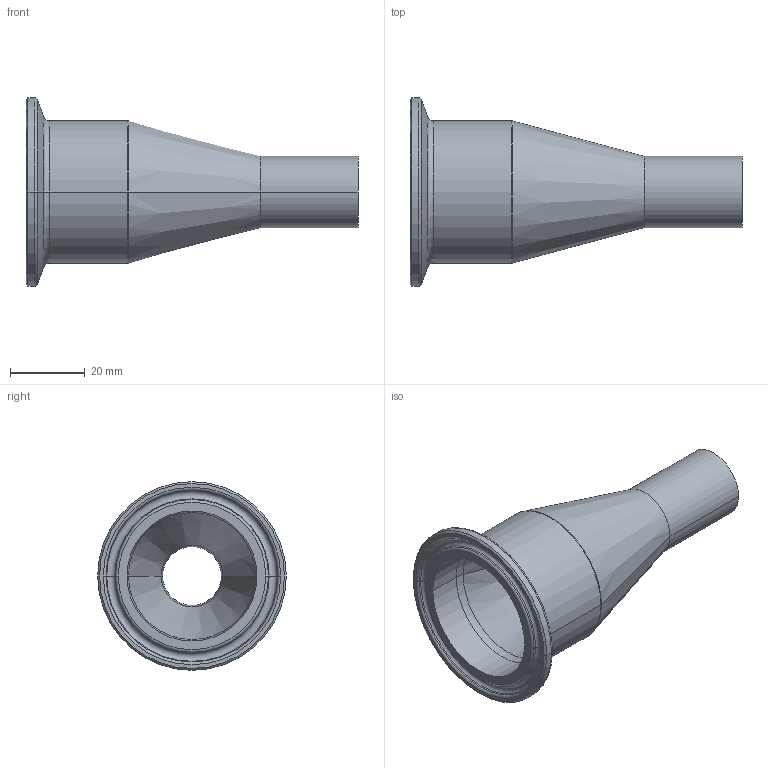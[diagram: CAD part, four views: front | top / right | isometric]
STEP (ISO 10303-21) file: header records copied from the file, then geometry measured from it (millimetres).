
FILE_DESCRIPTION (( 'STEP AP214' ), '1' );
FILE_NAME ('TE31SCW6L1.5x.75-...STEP', '2016-05-29T10:56:02', ( 'eran' ), ( '' ), 'SwSTEP 2.0', 'SolidWorks 2016', '' );
FILE_SCHEMA (( 'AUTOMOTIVE_DESIGN' ));
Length unit declared in the file: millimetre
Products named in the file (1): TE31SCW6L1.5x.75-..
Bounding box: 88.9 x 50.5 x 50.5 mm (x, y, z)
Volume: 31610.8 mm3; surface area: 16046.8 mm2
Topology: 1 solids, 1 shells, 41 faces, 82 edges, 44 vertices
Faces by surface type: torus 16, cone 12, cylinder 10, plane 3
Entity records: 1098 total; most frequent: DIRECTION 226, CARTESIAN_POINT 168, ORIENTED_EDGE 164, AXIS2_PLACEMENT_3D 102, EDGE_CURVE 82, CIRCLE 60, VERTEX_POINT 44, EDGE_LOOP 44
